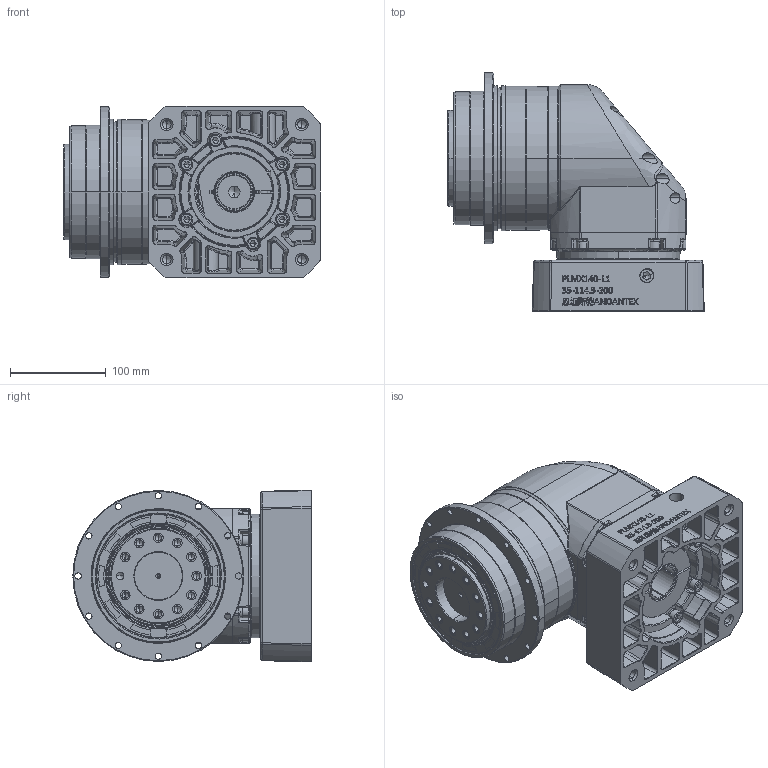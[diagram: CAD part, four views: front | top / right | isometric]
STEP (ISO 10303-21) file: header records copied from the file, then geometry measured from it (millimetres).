
FILE_DESCRIPTION (( 'STEP AP203' ), '1' );
FILE_NAME ('PLMX140-L1-35-114.3-200-M12-83.STEP', '2025-04-02T08:53:18', ( 'Windows User' ), ( 'P R C' ), 'SwSTEP 2.0', 'SolidWorks 2016', '' );
FILE_SCHEMA (( 'CONFIG_CONTROL_DESIGN' ));
Length unit declared in the file: millimetre
Products named in the file (17): PLMX140-输入轴-35; hexagon socket head cap screws gb_GB_FASTENER_SCREWS_HSHCS M6X60-C; PLMX140-L1-35-114.3-200-M12-83; spring lock washers--normal type gb_GB_FASTENER_WASHER_SW 8; MYD140_X2_8f9351fa51859f7f570858f34f53_X0_; hexagon socket head cap screws gb_GB_FASTENER_SCREWS_HSHCS M8X30-C; MYD140_X2_8f9351fa884c661f67b6_X0_; MYA142_X2_8f9351656cd55170_X0_-114.3; _X2_9aa867b66cb95c01_X0_105x130x12; MYA142_X2_8f93516595017d2773af_X0_; PLMX140-L1-_X2_524d6bb5_X0_; hexagon socket head cap screws gb_GB_FASTENER_SCREWS_HSHCS M10X35-C; MYDR140_X2_8f6c89d27bb14f53_X0_; PLMX-L1_X2_540e7aef_X0_; MYDR140_X2_8f9351fa7aef58f34f53_X0_-_X2_621054c1_X0_; 55-80-10; MYAR142_X2_8f9351657aef58f34f53_X0_
Assembly tree (50 placements, depth 3):
  PLMX140-L1-35-114.3-200-M12-83
    PLMX140-L1-_X2_524d6bb5_X0_
      MYD140_X2_8f9351fa51859f7f570858f34f53_X0_
      MYD140_X2_8f9351fa884c661f67b6_X0_
      _X2_9aa867b66cb95c01_X0_105x130x12
    PLMX-L1_X2_540e7aef_X0_
      MYDR140_X2_8f6c89d27bb14f53_X0_
      MYDR140_X2_8f9351fa7aef58f34f53_X0_-_X2_621054c1_X0_
      MYAR142_X2_8f9351657aef58f34f53_X0_
      hexagon socket head cap screws gb_GB_FASTENER_SCREWS_HSHCS M6X60-C  x9
      spring lock washers--normal type gb_GB_FASTENER_WASHER_SW 8  x14
      hexagon socket head cap screws gb_GB_FASTENER_SCREWS_HSHCS M8X30-C  x14
      MYA142_X2_8f9351656cd55170_X0_-114.3
      MYA142_X2_8f93516595017d2773af_X0_
      hexagon socket head cap screws gb_GB_FASTENER_SCREWS_HSHCS M10X35-C
    55-80-10
    PLMX140-输入轴-35
Bounding box: 268.5 x 249.5 x 180 mm (x, y, z)
Volume: 5201437.2 mm3; surface area: 710390.6 mm2
Topology: 48 solids, 50 shells, 3772 faces, 9174 edges, 5591 vertices
Faces by surface type: bspline 1235, plane 1225, cylinder 743, cone 467, torus 100, sphere 2
Entity records: 135358 total; most frequent: CARTESIAN_POINT 66899, ORIENTED_EDGE 15178, DIRECTION 11640, EDGE_CURVE 7589, VERTEX_POINT 4691, AXIS2_PLACEMENT_3D 4433, EDGE_LOOP 3408, ADVANCED_FACE 3117
